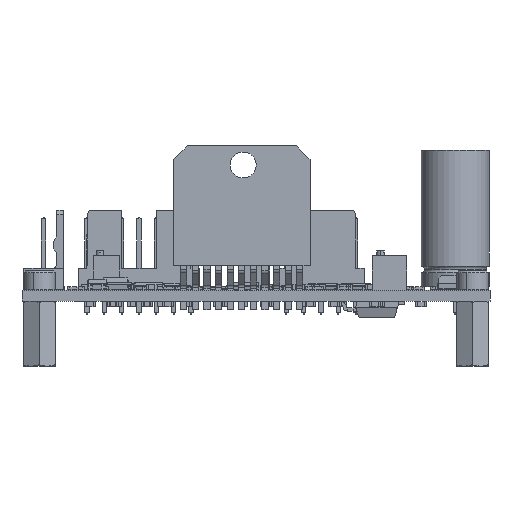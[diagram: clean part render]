
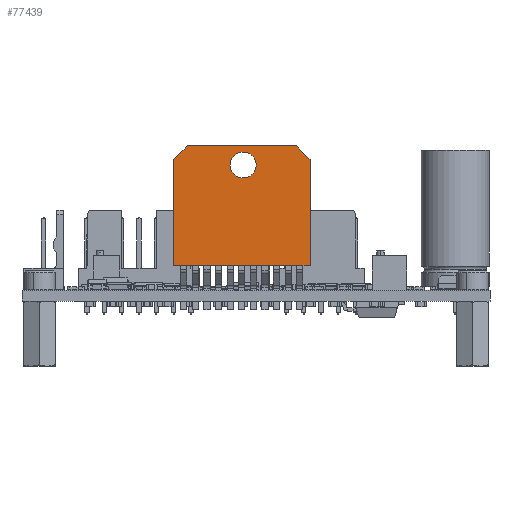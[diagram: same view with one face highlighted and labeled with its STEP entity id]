
A CAD part, front view. The second image highlights one B-rep face of the part: STEP entity #77439.
In plain terms, the highlighted planar face has unit normal (0, -1, 0) as drawn and (0, 1, 0) by its records, which use the part's own axes.
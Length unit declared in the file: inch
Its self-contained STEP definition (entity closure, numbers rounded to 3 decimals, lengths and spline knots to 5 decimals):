
#122 = CARTESIAN_POINT ( 'NONE',  ( 0.65, 0.37795, 0.83071 ) ) ;
#556 = FACE_BOUND ( 'NONE', #11725, .T. ) ;
#1197 = EDGE_CURVE ( 'NONE', #62241, #15039, #22401, .T. ) ;
#1886 = CARTESIAN_POINT ( 'NONE',  ( 0.02008, 0.37795, 0.83071 ) ) ;
#2068 = EDGE_CURVE ( 'NONE', #66089, #26142, #49360, .T. ) ;
#2475 = FACE_OUTER_BOUND ( 'NONE', #12774, .T. ) ;
#4484 = LINE ( 'NONE', #34796, #9319 ) ;
#7728 = EDGE_CURVE ( 'NONE', #15039, #61530, #8832, .T. ) ;
#7971 = PLANE ( 'NONE',  #15116 ) ;
#8832 = LINE ( 'NONE', #63088, #14556 ) ;
#9319 = VECTOR ( 'NONE', #21862, 39.37008 ) ;
#9658 = CARTESIAN_POINT ( 'NONE',  ( -0.05866, 0.37795, 0.14173 ) ) ;
#11327 = LINE ( 'NONE', #62611, #35501 ) ;
#11725 = EDGE_LOOP ( 'NONE', ( #22167, #22294 ) ) ;
#12269 = CARTESIAN_POINT ( 'NONE',  ( 0.32717, 0.37795, 0.72047 ) ) ;
#12774 = EDGE_LOOP ( 'NONE', ( #49401, #32415, #37334, #61422, #18336, #53716 ) ) ;
#13498 = DIRECTION ( 'NONE',  ( 0., 0., -1. ) ) ;
#13936 = DIRECTION ( 'NONE',  ( 0., 0., 1. ) ) ;
#14556 = VECTOR ( 'NONE', #74725, 39.37008 ) ;
#15039 = VERTEX_POINT ( 'NONE', #1886 ) ;
#15116 = AXIS2_PLACEMENT_3D ( 'NONE', #26606, #39033, #13936 ) ;
#15824 = CARTESIAN_POINT ( 'NONE',  ( 0.32717, 0.37795, 0.64567 ) ) ;
#18336 = ORIENTED_EDGE ( 'NONE', *, *, #7728, .T. ) ;
#18799 = DIRECTION ( 'NONE',  ( 0., -1., 0. ) ) ;
#18880 = VERTEX_POINT ( 'NONE', #67379 ) ;
#20084 = DIRECTION ( 'NONE',  ( 0.707, 0., 0.707 ) ) ;
#20830 = LINE ( 'NONE', #9658, #24689 ) ;
#21862 = DIRECTION ( 'NONE',  ( 0.707, 0., -0.707 ) ) ;
#22167 = ORIENTED_EDGE ( 'NONE', *, *, #69462, .T. ) ;
#22294 = ORIENTED_EDGE ( 'NONE', *, *, #29611, .T. ) ;
#22401 = LINE ( 'NONE', #31705, #64869 ) ;
#24209 = EDGE_CURVE ( 'NONE', #26142, #62241, #20830, .T. ) ;
#24689 = VECTOR ( 'NONE', #35294, 39.37008 ) ;
#25216 = DIRECTION ( 'NONE',  ( 0., 0., -1. ) ) ;
#25795 = DIRECTION ( 'NONE',  ( 0., 0., -1. ) ) ;
#26142 = VERTEX_POINT ( 'NONE', #27501 ) ;
#26606 = CARTESIAN_POINT ( 'NONE',  ( -0.05866, 0.37795, 0.14173 ) ) ;
#27501 = CARTESIAN_POINT ( 'NONE',  ( -0.05866, 0.37795, 0.14173 ) ) ;
#29611 = EDGE_CURVE ( 'NONE', #18880, #42902, #42140, .T. ) ;
#31705 = CARTESIAN_POINT ( 'NONE',  ( -0.05866, 0.37795, 0.75197 ) ) ;
#32098 = CARTESIAN_POINT ( 'NONE',  ( 0.72874, 0.37795, 0.75197 ) ) ;
#32415 = ORIENTED_EDGE ( 'NONE', *, *, #2068, .T. ) ;
#33308 = AXIS2_PLACEMENT_3D ( 'NONE', #74920, #18799, #25795 ) ;
#34796 = CARTESIAN_POINT ( 'NONE',  ( 0.65, 0.37795, 0.83071 ) ) ;
#35294 = DIRECTION ( 'NONE',  ( 0., 0., 1. ) ) ;
#35501 = VECTOR ( 'NONE', #13498, 39.37008 ) ;
#35789 = VECTOR ( 'NONE', #67422, 39.37008 ) ;
#36254 = EDGE_CURVE ( 'NONE', #60892, #66089, #11327, .T. ) ;
#37334 = ORIENTED_EDGE ( 'NONE', *, *, #24209, .T. ) ;
#39033 = DIRECTION ( 'NONE',  ( 0., 1., 0. ) ) ;
#42140 = CIRCLE ( 'NONE', #56188, 0.0748 ) ;
#42873 = CARTESIAN_POINT ( 'NONE',  ( -0.05866, 0.37795, 0.14173 ) ) ;
#42902 = VERTEX_POINT ( 'NONE', #15824 ) ;
#44019 = CARTESIAN_POINT ( 'NONE',  ( -0.05866, 0.37795, 0.75197 ) ) ;
#49360 = LINE ( 'NONE', #42873, #35789 ) ;
#49401 = ORIENTED_EDGE ( 'NONE', *, *, #36254, .T. ) ;
#53716 = ORIENTED_EDGE ( 'NONE', *, *, #77017, .T. ) ;
#56188 = AXIS2_PLACEMENT_3D ( 'NONE', #12269, #62457, #25216 ) ;
#60892 = VERTEX_POINT ( 'NONE', #32098 ) ;
#61422 = ORIENTED_EDGE ( 'NONE', *, *, #1197, .T. ) ;
#61530 = VERTEX_POINT ( 'NONE', #122 ) ;
#62241 = VERTEX_POINT ( 'NONE', #44019 ) ;
#62457 = DIRECTION ( 'NONE',  ( 0., -1., 0. ) ) ;
#62611 = CARTESIAN_POINT ( 'NONE',  ( 0.72874, 0.37795, 0.14173 ) ) ;
#63088 = CARTESIAN_POINT ( 'NONE',  ( -0.05866, 0.37795, 0.83071 ) ) ;
#64869 = VECTOR ( 'NONE', #20084, 39.37008 ) ;
#66089 = VERTEX_POINT ( 'NONE', #76256 ) ;
#67379 = CARTESIAN_POINT ( 'NONE',  ( 0.32717, 0.37795, 0.79528 ) ) ;
#67422 = DIRECTION ( 'NONE',  ( -1., 0., 0. ) ) ;
#69462 = EDGE_CURVE ( 'NONE', #42902, #18880, #70151, .T. ) ;
#70151 = CIRCLE ( 'NONE', #33308, 0.0748 ) ;
#74725 = DIRECTION ( 'NONE',  ( 1., 0., 0. ) ) ;
#74920 = CARTESIAN_POINT ( 'NONE',  ( 0.32717, 0.37795, 0.72047 ) ) ;
#76256 = CARTESIAN_POINT ( 'NONE',  ( 0.72874, 0.37795, 0.14173 ) ) ;
#77017 = EDGE_CURVE ( 'NONE', #61530, #60892, #4484, .T. ) ;
#77439 = ADVANCED_FACE ( 'NONE', ( #2475, #556 ), #7971, .T. ) ;
